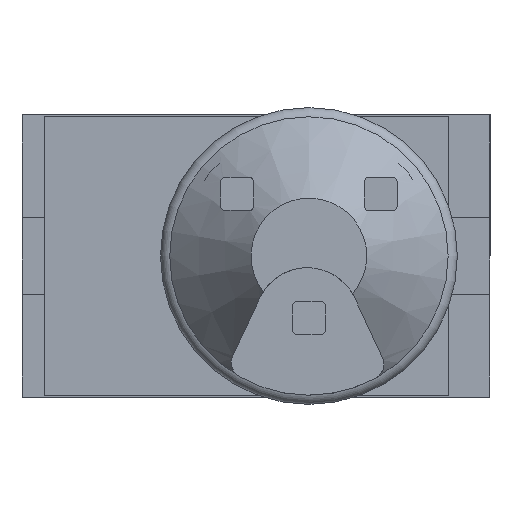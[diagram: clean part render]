
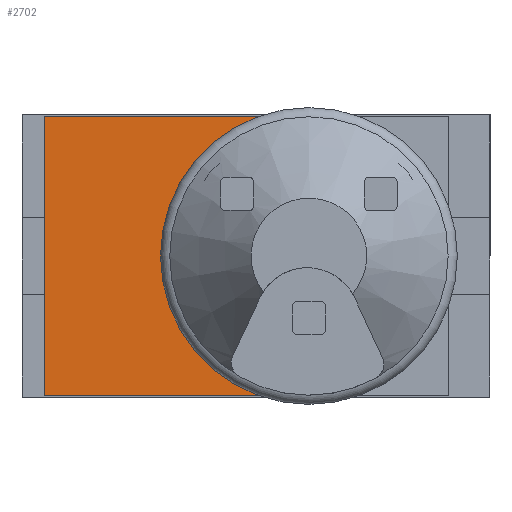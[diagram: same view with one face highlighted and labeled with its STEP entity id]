
A CAD part, front view. The second image highlights one B-rep face of the part: STEP entity #2702.
In plain terms, the highlighted planar face has unit normal (0, -1, 0).
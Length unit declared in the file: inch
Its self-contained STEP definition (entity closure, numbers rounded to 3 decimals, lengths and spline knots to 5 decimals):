
#141=PLANE('',#3020);
#289=FACE_OUTER_BOUND('',#465,.T.);
#465=EDGE_LOOP('',(#2192,#2193,#2194,#2195));
#654=LINE('',#4611,#885);
#655=LINE('',#4613,#886);
#656=LINE('',#4614,#887);
#885=VECTOR('',#3642,39.37008);
#886=VECTOR('',#3643,39.37008);
#887=VECTOR('',#3644,39.37008);
#1079=CIRCLE('',#2935,0.06791);
#1228=VERTEX_POINT('',#4374);
#1229=VERTEX_POINT('',#4375);
#1299=VERTEX_POINT('',#4610);
#1300=VERTEX_POINT('',#4612);
#1509=EDGE_CURVE('',#1228,#1229,#1079,.T.);
#1622=EDGE_CURVE('',#1228,#1299,#654,.T.);
#1623=EDGE_CURVE('',#1300,#1229,#655,.T.);
#1624=EDGE_CURVE('',#1299,#1300,#656,.T.);
#2192=ORIENTED_EDGE('',*,*,#1622,.F.);
#2193=ORIENTED_EDGE('',*,*,#1509,.T.);
#2194=ORIENTED_EDGE('',*,*,#1623,.F.);
#2195=ORIENTED_EDGE('',*,*,#1624,.F.);
#2702=ADVANCED_FACE('',(#289),#141,.T.);
#2935=AXIS2_PLACEMENT_3D('',#4376,#3391,#3392);
#3020=AXIS2_PLACEMENT_3D('',#4609,#3640,#3641);
#3391=DIRECTION('center_axis',(0.,1.,0.));
#3392=DIRECTION('ref_axis',(0.,0.,-1.));
#3640=DIRECTION('center_axis',(0.,-1.,0.));
#3641=DIRECTION('ref_axis',(0.,0.,-1.));
#3642=DIRECTION('',(-1.,0.,0.));
#3643=DIRECTION('',(1.,0.,0.));
#3644=DIRECTION('',(0.,0.,1.));
#4374=CARTESIAN_POINT('',(0.,-0.11811,-0.06791));
#4375=CARTESIAN_POINT('',(0.,-0.11811,0.06791));
#4376=CARTESIAN_POINT('Origin',(0.,-0.11811,0.));
#4609=CARTESIAN_POINT('Origin',(-0.12894,-0.11811,-0.06791));
#4610=CARTESIAN_POINT('',(-0.12894,-0.11811,-0.06791));
#4611=CARTESIAN_POINT('',(-0.12894,-0.11811,-0.06791));
#4612=CARTESIAN_POINT('',(-0.12894,-0.11811,0.06791));
#4613=CARTESIAN_POINT('',(-0.12894,-0.11811,0.06791));
#4614=CARTESIAN_POINT('',(-0.12894,-0.11811,0.06791));
